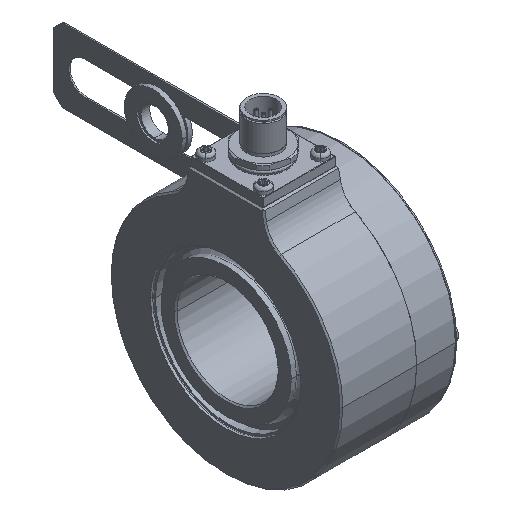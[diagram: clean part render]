
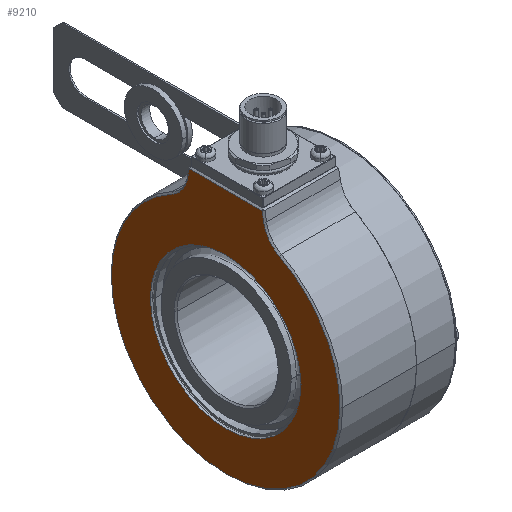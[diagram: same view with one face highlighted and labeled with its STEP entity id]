
A CAD part, isometric view. The second image highlights one B-rep face of the part: STEP entity #9210.
In plain terms, the highlighted planar face has unit normal (-1, 0, 0).
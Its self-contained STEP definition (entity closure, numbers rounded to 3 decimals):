
#80 = DIRECTION ( 'NONE',  ( 0., 1., 0. ) ) ;
#133 = CIRCLE ( 'NONE', #15844, 39.5 ) ;
#258 = CARTESIAN_POINT ( 'NONE',  ( -26., -13.141, 42.32 ) ) ;
#858 = DIRECTION ( 'NONE',  ( 1., 0., 0. ) ) ;
#1135 = ORIENTED_EDGE ( 'NONE', *, *, #3266, .T. ) ;
#1782 = AXIS2_PLACEMENT_3D ( 'NONE', #13658, #12576, #80 ) ;
#1834 = CARTESIAN_POINT ( 'NONE',  ( -26., 0., 0. ) ) ;
#2024 = DIRECTION ( 'NONE',  ( 0., -1., 0. ) ) ;
#2149 = DIRECTION ( 'NONE',  ( 0., 1., 0. ) ) ;
#2201 = CIRCLE ( 'NONE', #8797, 39.5 ) ;
#2231 = VERTEX_POINT ( 'NONE', #7268 ) ;
#2427 = DIRECTION ( 'NONE',  ( 0., 0.174, -0.985 ) ) ;
#3266 = EDGE_CURVE ( 'NONE', #6626, #17120, #16123, .T. ) ;
#3353 = CARTESIAN_POINT ( 'NONE',  ( -26., -26., 0. ) ) ;
#3732 = CIRCLE ( 'NONE', #1782, 26. ) ;
#3784 = LINE ( 'NONE', #16196, #8715 ) ;
#3885 = CARTESIAN_POINT ( 'NONE',  ( -26., 0., 0. ) ) ;
#4011 = CARTESIAN_POINT ( 'NONE',  ( -26., 18.551, 34.873 ) ) ;
#4097 = AXIS2_PLACEMENT_3D ( 'NONE', #7325, #858, #11837 ) ;
#4523 = VECTOR ( 'NONE', #10263, 1000. ) ;
#4719 = CARTESIAN_POINT ( 'NONE',  ( -26., 13.141, 42.32 ) ) ;
#4827 = DIRECTION ( 'NONE',  ( -1., 0., 0. ) ) ;
#5086 = CIRCLE ( 'NONE', #6384, 39.5 ) ;
#5109 = DIRECTION ( 'NONE',  ( -1., 0., 0. ) ) ;
#5166 = DIRECTION ( 'NONE',  ( 0., -1., 0. ) ) ;
#5223 = VERTEX_POINT ( 'NONE', #18180 ) ;
#5303 = FACE_OUTER_BOUND ( 'NONE', #15745, .T. ) ;
#5725 = CIRCLE ( 'NONE', #4097, 26. ) ;
#5950 = ORIENTED_EDGE ( 'NONE', *, *, #17178, .T. ) ;
#6258 = ORIENTED_EDGE ( 'NONE', *, *, #12353, .T. ) ;
#6352 = CARTESIAN_POINT ( 'NONE',  ( -26., -18.551, 34.873 ) ) ;
#6384 = AXIS2_PLACEMENT_3D ( 'NONE', #3885, #18035, #19571 ) ;
#6626 = VERTEX_POINT ( 'NONE', #6352 ) ;
#6697 = DIRECTION ( 'NONE',  ( 1., 0., 0. ) ) ;
#6987 = EDGE_CURVE ( 'NONE', #16400, #15029, #16154, .T. ) ;
#7219 = ORIENTED_EDGE ( 'NONE', *, *, #10640, .T. ) ;
#7268 = CARTESIAN_POINT ( 'NONE',  ( -26., -39.5, 0. ) ) ;
#7325 = CARTESIAN_POINT ( 'NONE',  ( -26., 0., 0. ) ) ;
#7838 = ORIENTED_EDGE ( 'NONE', *, *, #10145, .T. ) ;
#8259 = DIRECTION ( 'NONE',  ( 0., -1., 0. ) ) ;
#8314 = CARTESIAN_POINT ( 'NONE',  ( -26., -12.58, 45.5 ) ) ;
#8535 = CARTESIAN_POINT ( 'NONE',  ( -26., 39.5, 0. ) ) ;
#8681 = DIRECTION ( 'NONE',  ( 1., 0., 0. ) ) ;
#8685 = AXIS2_PLACEMENT_3D ( 'NONE', #19435, #16378, #2024 ) ;
#8715 = VECTOR ( 'NONE', #2149, 1000. ) ;
#8764 = EDGE_CURVE ( 'NONE', #2231, #6626, #5086, .T. ) ;
#8793 = CARTESIAN_POINT ( 'NONE',  ( -26., 23.482, 44.143 ) ) ;
#8797 = AXIS2_PLACEMENT_3D ( 'NONE', #1834, #5109, #12600 ) ;
#8896 = DIRECTION ( 'NONE',  ( 0., -1., 0. ) ) ;
#9210 = ADVANCED_FACE ( 'NONE', ( #5303, #13003 ), #18111, .T. ) ;
#10006 = EDGE_LOOP ( 'NONE', ( #5950, #16412 ) ) ;
#10145 = EDGE_CURVE ( 'NONE', #10497, #19368, #3784, .T. ) ;
#10263 = DIRECTION ( 'NONE',  ( 0., 0.174, 0.985 ) ) ;
#10497 = VERTEX_POINT ( 'NONE', #8314 ) ;
#10600 = AXIS2_PLACEMENT_3D ( 'NONE', #19083, #6697, #5166 ) ;
#10640 = EDGE_CURVE ( 'NONE', #19368, #16400, #16465, .T. ) ;
#11141 = ORIENTED_EDGE ( 'NONE', *, *, #13138, .T. ) ;
#11294 = VERTEX_POINT ( 'NONE', #8535 ) ;
#11333 = VECTOR ( 'NONE', #2427, 1000. ) ;
#11837 = DIRECTION ( 'NONE',  ( 0., 1., 0. ) ) ;
#11888 = ORIENTED_EDGE ( 'NONE', *, *, #16476, .T. ) ;
#12353 = EDGE_CURVE ( 'NONE', #15029, #11294, #2201, .T. ) ;
#12557 = AXIS2_PLACEMENT_3D ( 'NONE', #8793, #8681, #8896 ) ;
#12576 = DIRECTION ( 'NONE',  ( 1., 0., 0. ) ) ;
#12600 = DIRECTION ( 'NONE',  ( 0., -1., 0. ) ) ;
#13003 = FACE_BOUND ( 'NONE', #10006, .T. ) ;
#13138 = EDGE_CURVE ( 'NONE', #17120, #10497, #19650, .T. ) ;
#13658 = CARTESIAN_POINT ( 'NONE',  ( -26., 0., 0. ) ) ;
#13707 = CARTESIAN_POINT ( 'NONE',  ( -26., 12.58, 45.5 ) ) ;
#13767 = ORIENTED_EDGE ( 'NONE', *, *, #6987, .T. ) ;
#15029 = VERTEX_POINT ( 'NONE', #4011 ) ;
#15607 = VERTEX_POINT ( 'NONE', #3353 ) ;
#15745 = EDGE_LOOP ( 'NONE', ( #11141, #7838, #7219, #13767, #6258, #11888, #18310, #1135 ) ) ;
#15844 = AXIS2_PLACEMENT_3D ( 'NONE', #18870, #4827, #8259 ) ;
#16123 = CIRCLE ( 'NONE', #10600, 10.5 ) ;
#16154 = CIRCLE ( 'NONE', #12557, 10.5 ) ;
#16196 = CARTESIAN_POINT ( 'NONE',  ( -26., 40., 45.5 ) ) ;
#16370 = CARTESIAN_POINT ( 'NONE',  ( -26., 21.188, -3.317 ) ) ;
#16378 = DIRECTION ( 'NONE',  ( -1., 0., 0. ) ) ;
#16400 = VERTEX_POINT ( 'NONE', #4719 ) ;
#16412 = ORIENTED_EDGE ( 'NONE', *, *, #16787, .T. ) ;
#16465 = LINE ( 'NONE', #16370, #11333 ) ;
#16476 = EDGE_CURVE ( 'NONE', #11294, #2231, #133, .T. ) ;
#16787 = EDGE_CURVE ( 'NONE', #15607, #5223, #3732, .T. ) ;
#17120 = VERTEX_POINT ( 'NONE', #258 ) ;
#17178 = EDGE_CURVE ( 'NONE', #5223, #15607, #5725, .T. ) ;
#18035 = DIRECTION ( 'NONE',  ( -1., 0., 0. ) ) ;
#18111 = PLANE ( 'NONE',  #8685 ) ;
#18180 = CARTESIAN_POINT ( 'NONE',  ( -26., 26., 0. ) ) ;
#18310 = ORIENTED_EDGE ( 'NONE', *, *, #8764, .T. ) ;
#18870 = CARTESIAN_POINT ( 'NONE',  ( -26., 0., 0. ) ) ;
#19083 = CARTESIAN_POINT ( 'NONE',  ( -26., -23.482, 44.143 ) ) ;
#19244 = CARTESIAN_POINT ( 'NONE',  ( -26., -18.776, 10.364 ) ) ;
#19368 = VERTEX_POINT ( 'NONE', #13707 ) ;
#19435 = CARTESIAN_POINT ( 'NONE',  ( -26., 40., 0. ) ) ;
#19571 = DIRECTION ( 'NONE',  ( 0., -1., 0. ) ) ;
#19650 = LINE ( 'NONE', #19244, #4523 ) ;
